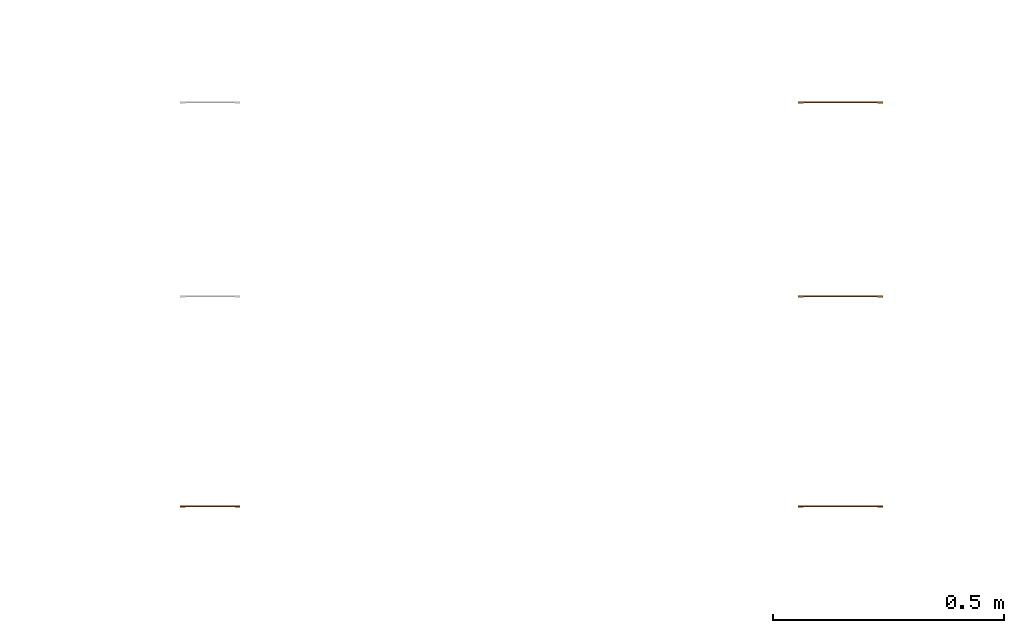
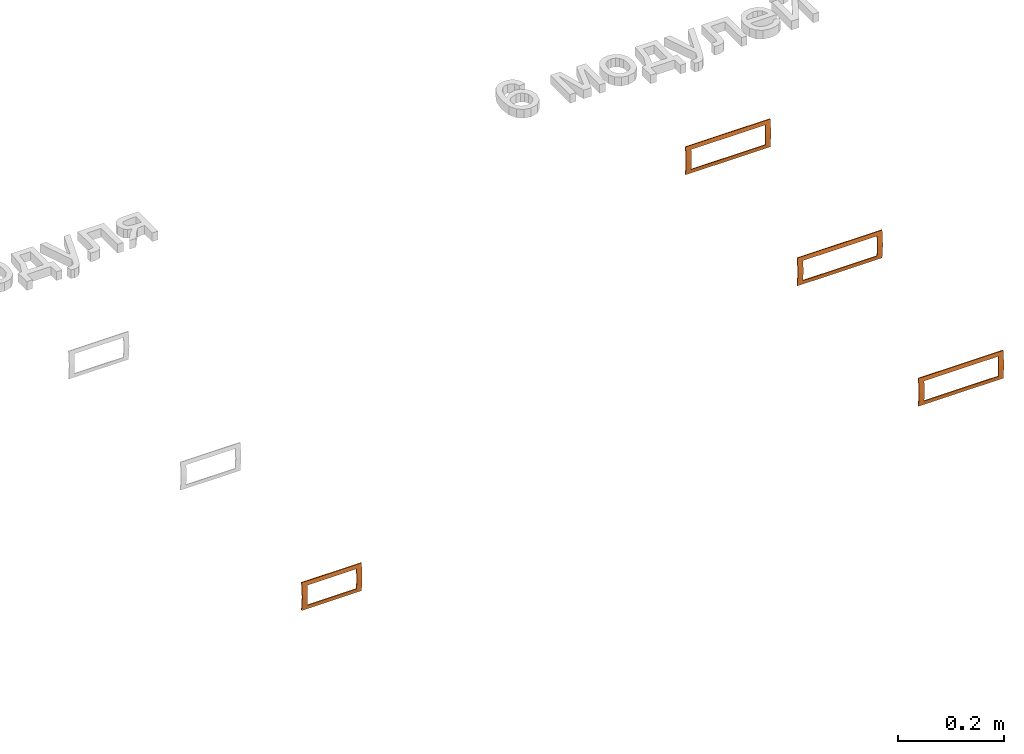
# One storey, part 82 of 87: 4 proxies.
"""IFC2X3 building model written with IfcOpenShell, lengths in millimetres."""

from ifc_helpers import new_model, entity, si_unit, converted_unit, derived_unit, direction, frame, origin, place, context, subcontext, project, spatial, faceted_brep, source, transform, mapped, material, type_object, type_shapes, element, save


model = new_model("IFC2X3")

# Units and contexts
model_context = context("Model", 3, precision=0.01, world=origin(), true_north=direction((6.12303176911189e-17, 1.0)))
body_context = subcontext(model_context, "Body", "Model", "MODEL_VIEW")
ifc_project = project(units=[si_unit("LENGTHUNIT", "METRE", prefix="MILLI"), si_unit("AREAUNIT", "SQUARE_METRE"), si_unit("VOLUMEUNIT", "CUBIC_METRE"), converted_unit("PLANEANGLEUNIT", "DEGREE", entity("IfcRatioMeasure", 0.0174532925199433), si_unit("PLANEANGLEUNIT", "RADIAN"), dimensions=[0, 0, 0, 0, 0, 0, 0]), si_unit("MASSUNIT", "GRAM", prefix="KILO"), derived_unit("MASSDENSITYUNIT", [(si_unit("MASSUNIT", "GRAM", prefix="KILO"), 1), (si_unit("LENGTHUNIT", "METRE"), -3)]), si_unit("TIMEUNIT", "SECOND"), si_unit("FREQUENCYUNIT", "HERTZ"), si_unit("THERMODYNAMICTEMPERATUREUNIT", "DEGREE_CELSIUS"), derived_unit("THERMALTRANSMITTANCEUNIT", [(si_unit("MASSUNIT", "GRAM", prefix="KILO"), 1), (si_unit("THERMODYNAMICTEMPERATUREUNIT", "KELVIN"), -1), (si_unit("TIMEUNIT", "SECOND"), -3)]), derived_unit("VOLUMETRICFLOWRATEUNIT", [(si_unit("LENGTHUNIT", "METRE"), 3), (si_unit("TIMEUNIT", "SECOND"), -1)]), si_unit("ELECTRICCURRENTUNIT", "AMPERE"), si_unit("ELECTRICVOLTAGEUNIT", "VOLT"), si_unit("POWERUNIT", "WATT"), si_unit("FORCEUNIT", "NEWTON", prefix="KILO"), si_unit("ILLUMINANCEUNIT", "LUX"), si_unit("LUMINOUSFLUXUNIT", "LUMEN"), si_unit("LUMINOUSINTENSITYUNIT", "CANDELA"), derived_unit("USERDEFINED", [(si_unit("MASSUNIT", "GRAM", prefix="KILO"), -1), (si_unit("LENGTHUNIT", "METRE"), -2), (si_unit("TIMEUNIT", "SECOND"), 3), (si_unit("LUMINOUSFLUXUNIT", "LUMEN"), 1)]), derived_unit("LINEARVELOCITYUNIT", [(si_unit("LENGTHUNIT", "METRE"), 1), (si_unit("TIMEUNIT", "SECOND"), -1)]), si_unit("PRESSUREUNIT", "PASCAL"), derived_unit("USERDEFINED", [(si_unit("LENGTHUNIT", "METRE"), -2), (si_unit("MASSUNIT", "GRAM", prefix="KILO"), 1), (si_unit("TIMEUNIT", "SECOND"), -2)])], contexts=[model_context])

# Site, building, storey
site_placement = place(None, origin())
site = spatial("IfcSite", under=ifc_project, at=site_placement, Name="Default", CompositionType="ELEMENT")
building_placement = place(site_placement, origin())
building = spatial("IfcBuilding", under=site, at=building_placement, Name="Наименование здания", CompositionType="ELEMENT")
storey_placement = place(building_placement, origin())
storey = spatial("IfcBuildingStorey", under=building, at=storey_placement, Name="Этаж 01", CompositionType="ELEMENT", Elevation=0.0)

# Proxies
ifc_material_1 = material(Name="DKC_Пластик_Серо-черный")
building_element_proxy_type_1 = type_object("IfcBuildingElementProxyType", Name="4 модуля", PredefinedType="NOTDEFINED", material=ifc_material_1)
shared_shape_1 = source(origin(), body_context, "Body", "Brep", [
    faceted_brep([(53.5, -3.2414183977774, -22.9768143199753), (53.5, -3.57058766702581, -17.2326107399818), (53.5, -3.89975693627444, -11.4884071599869), (53.5, -4.22892620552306, -5.74420357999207), (53.5, -4.55809547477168, 0.0), (53.5, -4.22892620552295, 5.74420357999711), (53.5, -3.89975693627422, 11.4884071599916), (53.5, -3.57058766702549, 17.2326107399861), (53.5, -3.24141839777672, 22.9768143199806), (53.5, -1.24141839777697, 22.976814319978), (53.5, -1.57058766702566, 17.2326107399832), (53.5, -1.89975693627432, 11.4884071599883), (53.5, -2.22892620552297, 5.74420357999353), (53.5, -2.55809547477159, 0.0), (53.5, -2.22892620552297, -5.74420357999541), (53.5, -1.89975693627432, -11.4884071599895), (53.5, -1.57058766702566, -17.2326107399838), (53.5, -1.24141839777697, -22.9768143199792), (-53.5, -3.24141839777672, 22.9768143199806), (-53.5, -3.57058766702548, 17.2326107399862), (-53.5, -3.89975693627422, 11.4884071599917), (-53.5, -4.22892620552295, 5.74420357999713), (-53.5, -4.55809547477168, 0.0), (-53.5, -4.22892620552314, -5.74420357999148), (-53.5, -3.89975693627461, -11.4884071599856), (-53.5, -3.57058766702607, -17.2326107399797), (-53.5, -3.24141839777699, -22.9768143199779), (-53.5, -1.24141839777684, -22.9768143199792), (-53.5, -1.57058766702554, -17.2326107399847), (-53.5, -1.89975693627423, -11.4884071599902), (-53.5, -2.22892620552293, -5.74420357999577), (-53.5, -2.55809547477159, 0.0), (-53.5, -2.22892620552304, 5.74420357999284), (-53.5, -1.89975693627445, 11.4884071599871), (-53.5, -1.57058766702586, 17.2326107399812), (-53.5, -1.24141839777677, 22.9768143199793), (26.75, -3.24141839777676, 22.9768143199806), (0.0, -3.24141839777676, 22.9768143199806), (-26.75, -3.24141839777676, 22.9768143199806), (-26.75, -1.24141839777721, 22.976814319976), (0.0, -1.24141839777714, 22.9768143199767), (26.75, -1.24141839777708, 22.9768143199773), (26.75, -1.24141839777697, -22.9768143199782), (0.0, -1.24141839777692, -22.9768143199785), (-26.75, -1.24141839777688, -22.9768143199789), (-26.75, -3.24141839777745, -22.9768143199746), (0.0, -3.24141839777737, -22.9768143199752), (26.75, -3.24141839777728, -22.9768143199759), (65.0, -2.0, -31.9768143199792), (65.0, 0.0, -31.9768143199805), (65.0, -0.639523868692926, -23.9826107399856), (65.0, -1.27904773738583, -15.9884071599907), (65.0, -1.91857160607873, -7.99420357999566), (65.0, -2.55809547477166, 0.0), (65.0, -1.91857160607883, 7.99420357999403), (65.0, -1.27904773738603, 15.9884071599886), (65.0, -0.63952386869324, 23.9826107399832), (65.0, 0.0, 31.9768143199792), (65.0, -2.0, 31.9768143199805), (65.0, -2.63952386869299, 23.9826107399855), (65.0, -3.27904773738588, 15.9884071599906), (65.0, -3.91857160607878, 7.99420357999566), (65.0, -4.55809547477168, 0.0), (65.0, -3.91857160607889, -7.99420357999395), (65.0, -3.27904773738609, -15.9884071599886), (65.0, -2.63952386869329, -23.9826107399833), (-65.0, -2.0, 31.9768143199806), (-65.0, 0.0, 31.9768143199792), (-65.0, -0.639523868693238, 23.9826107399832), (-65.0, -1.27904773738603, 15.9884071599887), (-65.0, -1.91857160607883, 7.99420357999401), (-65.0, -2.55809547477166, 0.0), (-65.0, -1.91857160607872, -7.99420357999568), (-65.0, -1.27904773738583, -15.9884071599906), (-65.0, -0.639523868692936, -23.9826107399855), (-65.0, 0.0, -31.9768143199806), (-65.0, -2.0, -31.9768143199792), (-65.0, -2.6395238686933, -23.9826107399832), (-65.0, -3.27904773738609, -15.9884071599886), (-65.0, -3.91857160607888, -7.99420357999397), (-65.0, -4.55809547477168, 0.0), (-65.0, -3.91857160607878, 7.99420357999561), (-65.0, -3.27904773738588, 15.9884071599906), (-65.0, -2.63952386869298, 23.9826107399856), (32.5, -2.0, 31.9768143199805), (0.0, -2.0, 31.9768143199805), (-32.5, -2.0, 31.9768143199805), (0.0, -2.0, -31.9768143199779), (32.5, -2.0, -31.9768143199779), (-32.5, -2.0, -31.9768143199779), (-32.5, 0.0, -31.9768143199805), (0.0, 0.0, -31.9768143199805), (32.5, 0.0, -31.9768143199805), (-32.5, 0.0, 31.9768143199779), (0.0, 0.0, 31.9768143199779), (32.5, 0.0, 31.9768143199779)], [[[0, 1, 2, 3, 4, 5, 6, 7, 8, 9, 10, 11, 12, 13, 14, 15, 16, 17]], [[18, 19, 20, 21, 22, 23, 24, 25, 26, 27, 28, 29, 30, 31, 32, 33, 34, 35]], [[9, 8, 36, 37, 38, 18, 35, 39, 40, 41]], [[0, 17, 42, 43, 44, 27, 26, 45, 46, 47]], [[48, 49, 50, 51, 52, 53, 54, 55, 56, 57, 58, 59, 60, 61, 62, 63, 64, 65]], [[66, 67, 68, 69, 70, 71, 72, 73, 74, 75, 76, 77, 78, 79, 80, 81, 82, 83]], [[21, 20, 81]], [[7, 59, 8]], [[78, 24, 79]], [[19, 18, 83]], [[36, 8, 58, 84, 85, 86, 66, 18, 38, 37]], [[83, 82, 19]], [[58, 8, 59]], [[23, 80, 79]], [[65, 64, 1]], [[5, 62, 61]], [[76, 26, 77]], [[87, 88, 48, 0, 47, 46, 45, 26, 76, 89]], [[63, 3, 2]], [[1, 0, 65]], [[0, 48, 65]], [[60, 6, 61]], [[18, 66, 83]], [[25, 77, 26]], [[21, 80, 22]], [[62, 5, 4]], [[78, 25, 24]], [[3, 62, 4]], [[80, 23, 22]], [[60, 7, 6]], [[82, 20, 19]], [[77, 25, 78]], [[64, 2, 1]], [[59, 7, 60]], [[20, 82, 81]], [[2, 64, 63]], [[62, 3, 63]], [[80, 21, 81]], [[79, 24, 23]], [[61, 6, 5]], [[49, 48, 88, 87, 89, 76, 75, 90, 91, 92]], [[44, 43, 42, 17, 49, 92, 91, 90, 75, 27]], [[52, 15, 14]], [[72, 71, 30]], [[75, 74, 27]], [[73, 72, 29]], [[34, 68, 35]], [[34, 69, 68]], [[50, 49, 17]], [[9, 57, 56]], [[35, 67, 93, 94, 95, 57, 9, 41, 40, 39]], [[55, 54, 11]], [[54, 53, 12]], [[70, 33, 32]], [[16, 51, 50]], [[9, 56, 10]], [[16, 50, 17]], [[27, 74, 28]], [[68, 67, 35]], [[29, 28, 73]], [[31, 71, 32]], [[13, 12, 53]], [[11, 10, 55]], [[13, 53, 14]], [[31, 30, 71]], [[73, 28, 74]], [[34, 33, 69]], [[55, 10, 56]], [[16, 15, 51]], [[70, 69, 33]], [[52, 51, 15]], [[52, 14, 53]], [[70, 32, 71]], [[30, 29, 72]], [[12, 11, 54]], [[58, 57, 95, 94, 93, 67, 66, 86, 85, 84]]]),
])
type_shapes(building_element_proxy_type_1, [shared_shape_1])
proxy_1_placement = place(storey_placement, frame((78674.7265172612, -8514.43036670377, 0.0)))
element("IfcBuildingElementProxy", 1, at=proxy_1_placement, inside=storey, type_object=building_element_proxy_type_1, material=ifc_material_1, Name="КНС_РамкаУниверсальная_ILF_DKC:4 модуля", ObjectType="4 модуля", context=body_context, shape_type="MappedRepresentation", body=[
    mapped(shared_shape_1, transform((0.0, 0.0, 0.0), scale=1.0)),
])
ifc_material_2 = material(Name="DKC_Пластик_Белый")
building_element_proxy_type_2 = type_object("IfcBuildingElementProxyType", Name="6 модулей", PredefinedType="NOTDEFINED", material=ifc_material_2)
shared_shape_2 = source(origin(), body_context, "Body", "Brep", [
    faceted_brep([(92.0, -2.0, -31.9768143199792), (92.0, 0.0, -31.9768143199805), (92.0, -0.639523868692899, -23.9826107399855), (92.0, -1.27904773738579, -15.9884071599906), (92.0, -1.59880967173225, -11.991305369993), (92.0, -1.9185716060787, -7.99420357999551), (92.0, -2.23833354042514, -3.99710178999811), (92.0, -2.55809547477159, 0.0), (92.0, -2.2383335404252, 3.99710178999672), (92.0, -1.91857160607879, 7.99420357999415), (92.0, -1.59880967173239, 11.9913053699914), (92.0, -1.27904773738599, 15.9884071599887), (92.0, -0.6395238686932, 23.9826107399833), (92.0, 0.0, 31.9768143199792), (92.0, -2.0, 31.9768143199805), (92.0, -2.63952386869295, 23.9826107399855), (92.0, -3.27904773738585, 15.9884071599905), (92.0, -3.59880967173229, 11.9913053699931), (92.0, -3.91857160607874, 7.99420357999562), (92.0, -4.23833354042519, 3.99710178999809), (92.0, -4.55809547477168, 0.0), (92.0, -4.23833354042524, -3.99710178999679), (92.0, -3.91857160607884, -7.99420357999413), (92.0, -3.59880967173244, -11.9913053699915), (92.0, -3.27904773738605, -15.9884071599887), (92.0, -2.63952386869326, -23.9826107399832), (-92.0, -2.0, 31.9768143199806), (-92.0, 0.0, 31.9768143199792), (-92.0, -0.639523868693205, 23.9826107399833), (-92.0, -1.279047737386, 15.9884071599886), (-92.0, -1.5988096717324, 11.9913053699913), (-92.0, -1.9185716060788, 7.99420357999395), (-92.0, -2.2383335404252, 3.99710178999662), (-92.0, -2.55809547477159, 0.0), (-92.0, -2.23833354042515, -3.99710178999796), (-92.0, -1.9185716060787, -7.99420357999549), (-92.0, -1.59880967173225, -11.991305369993), (-92.0, -1.2790477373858, -15.9884071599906), (-92.0, -0.639523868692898, -23.9826107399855), (-92.0, 0.0, -31.9768143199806), (-92.0, -2.0, -31.9768143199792), (-92.0, -2.63952386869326, -23.9826107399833), (-92.0, -3.27904773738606, -15.9884071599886), (-92.0, -3.59880967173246, -11.9913053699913), (-92.0, -3.91857160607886, -7.99420357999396), (-92.0, -4.23833354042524, -3.99710178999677), (-92.0, -4.55809547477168, 0.0), (-92.0, -4.2383335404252, 3.99710178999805), (-92.0, -3.91857160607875, 7.99420357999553), (-92.0, -3.5988096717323, 11.991305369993), (-92.0, -3.27904773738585, 15.9884071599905), (-92.0, -2.63952386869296, 23.9826107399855), (-80.5, -4.22892620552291, 5.74420357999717), (-80.5, -3.89975693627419, 11.4884071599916), (80.5, -3.57058766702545, 17.2326107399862), (80.5, -3.24141839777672, 22.9768143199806), (-80.5, -3.89975693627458, -11.4884071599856), (-80.5, -3.57058766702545, 17.2326107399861), (-80.5, -3.24141839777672, 22.9768143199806), (40.25, -3.24141839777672, 22.9768143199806), (46.0, -2.0, 31.9768143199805), (0.0, -2.0, 31.9768143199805), (-46.0, -2.0, 31.9768143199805), (-40.25, -3.24141839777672, 22.9768143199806), (0.0, -3.24141839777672, 22.9768143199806), (-80.5, -4.22892620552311, -5.74420357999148), (80.5, -3.57058766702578, -17.2326107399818), (80.5, -4.22892620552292, 5.74420357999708), (-80.5, -3.2414183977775, -22.9768143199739), (0.0, -2.0, -31.9768143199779), (46.0, -2.0, -31.9768143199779), (80.5, -3.24141839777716, -22.9768143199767), (40.25, -3.24141839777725, -22.976814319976), (0.0, -3.24141839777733, -22.9768143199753), (-40.25, -3.24141839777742, -22.9768143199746), (-46.0, -2.0, -31.9768143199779), (80.5, -4.22892620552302, -5.74420357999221), (80.5, -3.8997569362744, -11.488407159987), (80.5, -3.89975693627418, 11.4884071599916), (-80.5, -3.57058766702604, -17.2326107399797), (-80.5, -4.55809547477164, 0.0), (80.5, -4.55809547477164, 0.0), (-46.0, 0.0, -31.9768143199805), (0.0, 0.0, -31.9768143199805), (46.0, 0.0, -31.9768143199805), (-40.25, -1.24141839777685, -22.9768143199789), (0.0, -1.24141839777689, -22.9768143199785), (40.25, -1.24141839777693, -22.9768143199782), (80.5, -1.24141839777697, -22.9768143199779), (-80.5, -1.24141839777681, -22.9768143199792), (80.5, -1.89975693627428, -11.4884071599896), (80.5, -2.22892620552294, -5.74420357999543), (-80.5, -2.2289262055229, -5.74420357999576), (-80.5, -1.8997569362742, -11.4884071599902), (-80.5, -1.57058766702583, 17.2326107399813), (-80.5, -1.24141839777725, 22.9768143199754), (80.5, -1.24141839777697, 22.976814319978), (-46.0, 0.0, 31.9768143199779), (0.0, 0.0, 31.9768143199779), (46.0, 0.0, 31.9768143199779), (40.25, -1.24141839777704, 22.9768143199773), (0.0, -1.24141839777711, 22.9768143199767), (-40.25, -1.24141839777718, 22.9768143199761), (80.5, -1.89975693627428, 11.4884071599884), (80.5, -2.22892620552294, 5.74420357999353), (-80.5, -1.89975693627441, 11.4884071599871), (-80.5, -2.22892620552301, 5.74420357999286), (80.5, -1.57058766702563, -17.2326107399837), (80.5, -1.57058766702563, 17.2326107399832), (-80.5, -1.5705876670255, -17.2326107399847), (-80.5, -2.55809547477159, 0.0), (80.5, -2.55809547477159, 0.0)], [[[0, 1, 2, 3, 4, 5, 6, 7, 8, 9, 10, 11, 12, 13, 14, 15, 16, 17, 18, 19, 20, 21, 22, 23, 24, 25]], [[26, 27, 28, 29, 30, 31, 32, 33, 34, 35, 36, 37, 38, 39, 40, 41, 42, 43, 44, 45, 46, 47, 48, 49, 50, 51]], [[52, 53, 48]], [[54, 15, 55]], [[42, 56, 44, 43]], [[57, 58, 51]], [[59, 55, 14, 60, 61, 62, 26, 58, 63, 64]], [[51, 50, 57]], [[14, 55, 15]], [[65, 45, 44]], [[25, 24, 66]], [[67, 19, 18]], [[40, 68, 41]], [[69, 70, 0, 71, 72, 73, 74, 68, 40, 75]], [[22, 76, 77]], [[66, 71, 25]], [[71, 0, 25]], [[16, 78, 18, 17]], [[58, 26, 51]], [[79, 41, 68]], [[47, 80, 52]], [[42, 79, 56]], [[21, 81, 76]], [[16, 54, 78]], [[50, 53, 57]], [[41, 79, 42]], [[24, 77, 66]], [[15, 54, 16]], [[45, 80, 46]], [[81, 21, 20]], [[19, 81, 20]], [[80, 47, 46]], [[53, 50, 49, 48]], [[77, 24, 23, 22]], [[44, 56, 65]], [[18, 78, 67]], [[81, 19, 67]], [[80, 45, 65]], [[52, 48, 47]], [[76, 22, 21]], [[1, 0, 70, 69, 75, 40, 39, 82, 83, 84]], [[85, 86, 87, 88, 1, 84, 83, 82, 39, 89]], [[5, 90, 91]], [[35, 34, 92]], [[39, 38, 89]], [[37, 36, 35, 93]], [[94, 28, 95]], [[94, 29, 28]], [[2, 1, 88]], [[96, 13, 12]], [[95, 27, 97, 98, 99, 13, 96, 100, 101, 102]], [[11, 10, 9, 103]], [[9, 8, 104]], [[31, 105, 106]], [[107, 3, 2]], [[96, 12, 108]], [[107, 2, 88]], [[89, 38, 109]], [[28, 27, 95]], [[93, 109, 37]], [[106, 110, 32]], [[103, 108, 11]], [[91, 111, 6]], [[37, 109, 38]], [[94, 105, 29]], [[11, 108, 12]], [[107, 90, 3]], [[33, 110, 34]], [[7, 6, 111]], [[7, 111, 8]], [[33, 32, 110]], [[31, 30, 29, 105]], [[5, 4, 3, 90]], [[92, 93, 35]], [[104, 103, 9]], [[104, 8, 111]], [[92, 34, 110]], [[32, 31, 106]], [[6, 5, 91]], [[14, 13, 99, 98, 97, 27, 26, 62, 61, 60]], [[71, 66, 77, 76, 81, 67, 78, 54, 55, 96, 108, 103, 104, 111, 91, 90, 107, 88]], [[58, 57, 53, 52, 80, 65, 56, 79, 68, 89, 109, 93, 92, 110, 106, 105, 94, 95]], [[55, 59, 64, 63, 58, 95, 102, 101, 100, 96]], [[88, 87, 86, 85, 89, 68, 74, 73, 72, 71]]]),
])
type_shapes(building_element_proxy_type_2, [shared_shape_2])
proxy_2_placement = place(storey_placement, frame((80040.6325443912, -7638.63930816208, 0.0)))
element("IfcBuildingElementProxy", 2, at=proxy_2_placement, inside=storey, type_object=building_element_proxy_type_2, material=ifc_material_2, Name="КНС_РамкаУниверсальная_ILF_DKC:6 модулей", ObjectType="6 модулей", context=body_context, shape_type="MappedRepresentation", body=[
    mapped(shared_shape_2, transform((0.0, 0.0, 0.0), scale=1.0)),
])
ifc_material_3 = material(Name="DKC_Пластик_СерыйМеталлик")
building_element_proxy_type_3 = type_object("IfcBuildingElementProxyType", Name="6 модулей", PredefinedType="NOTDEFINED", material=ifc_material_3)
shared_shape_3 = source(origin(), body_context, "Body", "Brep", [
    faceted_brep([(80.5, -3.24141839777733, -22.9768143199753), (80.5, -3.57058766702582, -17.2326107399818), (80.5, -3.89975693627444, -11.488407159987), (80.5, -4.22892620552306, -5.74420357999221), (80.5, -4.55809547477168, 0.0), (80.5, -4.22892620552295, 5.74420357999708), (80.5, -3.89975693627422, 11.4884071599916), (80.5, -3.57058766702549, 17.2326107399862), (80.5, -3.24141839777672, 22.9768143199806), (80.5, -1.24141839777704, 22.9768143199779), (80.5, -1.57058766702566, 17.2326107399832), (80.5, -1.89975693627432, 11.4884071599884), (80.5, -2.22892620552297, 5.74420357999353), (80.5, -2.55809547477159, 0.0), (80.5, -2.22892620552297, -5.74420357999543), (80.5, -1.89975693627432, -11.4884071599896), (80.5, -1.57058766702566, -17.2326107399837), (80.5, -1.24141839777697, -22.9768143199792), (-80.5, -3.24141839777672, 22.9768143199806), (-80.5, -3.57058766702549, 17.2326107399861), (-80.5, -3.89975693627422, 11.4884071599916), (-80.5, -4.22892620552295, 5.74420357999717), (-80.5, -4.55809547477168, 0.0), (-80.5, -4.22892620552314, -5.74420357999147), (-80.5, -3.89975693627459, -11.4884071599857), (-80.5, -3.57058766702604, -17.2326107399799), (-80.5, -3.24141839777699, -22.9768143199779), (-80.5, -1.24141839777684, -22.9768143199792), (-80.5, -1.57058766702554, -17.2326107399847), (-80.5, -1.89975693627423, -11.4884071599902), (-80.5, -2.22892620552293, -5.74420357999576), (-80.5, -2.55809547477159, 0.0), (-80.5, -2.22892620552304, 5.74420357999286), (-80.5, -1.89975693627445, 11.4884071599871), (-80.5, -1.57058766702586, 17.2326107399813), (-80.5, -1.24141839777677, 22.9768143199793), (40.25, -3.24141839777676, 22.9768143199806), (0.0, -3.24141839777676, 22.9768143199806), (-40.25, -3.24141839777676, 22.9768143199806), (-40.25, -1.24141839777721, 22.9768143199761), (0.0, -1.24141839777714, 22.9768143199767), (40.25, -1.24141839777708, 22.9768143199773), (40.25, -1.24141839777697, -22.9768143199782), (0.0, -1.24141839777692, -22.9768143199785), (-40.25, -1.24141839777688, -22.9768143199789), (-40.25, -3.24141839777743, -22.9768143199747), (0.0, -3.24141839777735, -22.9768143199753), (40.25, -3.24141839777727, -22.976814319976), (92.0, -2.0, -31.9768143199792), (92.0, 0.0, -31.9768143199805), (92.0, -0.639523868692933, -23.9826107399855), (92.0, -1.27904773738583, -15.9884071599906), (92.0, -1.59880967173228, -11.991305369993), (92.0, -1.91857160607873, -7.99420357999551), (92.0, -2.23833354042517, -3.99710178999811), (92.0, -2.55809547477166, 0.0), (92.0, -2.23833354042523, 3.99710178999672), (92.0, -1.91857160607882, 7.99420357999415), (92.0, -1.59880967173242, 11.9913053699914), (92.0, -1.27904773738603, 15.9884071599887), (92.0, -0.639523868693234, 23.9826107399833), (92.0, 0.0, 31.9768143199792), (92.0, -2.0, 31.9768143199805), (92.0, -2.63952386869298, 23.9826107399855), (92.0, -3.27904773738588, 15.9884071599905), (92.0, -3.59880967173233, 11.9913053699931), (92.0, -3.91857160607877, 7.99420357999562), (92.0, -4.23833354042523, 3.99710178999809), (92.0, -4.55809547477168, 0.0), (92.0, -4.23833354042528, -3.99710178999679), (92.0, -3.91857160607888, -7.99420357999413), (92.0, -3.59880967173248, -11.9913053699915), (92.0, -3.27904773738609, -15.9884071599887), (92.0, -2.63952386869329, -23.9826107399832), (-92.0, -2.0, 31.9768143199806), (-92.0, 0.0, 31.9768143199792), (-92.0, -0.639523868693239, 23.9826107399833), (-92.0, -1.27904773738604, 15.9884071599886), (-92.0, -1.59880967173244, 11.9913053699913), (-92.0, -1.91857160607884, 7.99420357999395), (-92.0, -2.23833354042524, 3.99710178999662), (-92.0, -2.55809547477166, 0.0), (-92.0, -2.23833354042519, -3.99710178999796), (-92.0, -1.91857160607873, -7.99420357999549), (-92.0, -1.59880967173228, -11.991305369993), (-92.0, -1.27904773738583, -15.9884071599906), (-92.0, -0.639523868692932, -23.9826107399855), (-92.0, 0.0, -31.9768143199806), (-92.0, -2.0, -31.9768143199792), (-92.0, -2.63952386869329, -23.9826107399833), (-92.0, -3.27904773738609, -15.9884071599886), (-92.0, -3.59880967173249, -11.9913053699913), (-92.0, -3.91857160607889, -7.99420357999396), (-92.0, -4.23833354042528, -3.99710178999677), (-92.0, -4.55809547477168, 0.0), (-92.0, -4.23833354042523, 3.99710178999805), (-92.0, -3.91857160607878, 7.99420357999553), (-92.0, -3.59880967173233, 11.991305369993), (-92.0, -3.27904773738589, 15.9884071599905), (-92.0, -2.63952386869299, 23.9826107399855), (46.0, -2.0, 31.9768143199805), (0.0, -2.0, 31.9768143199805), (-46.0, -2.0, 31.9768143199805), (0.0, -2.0, -31.9768143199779), (46.0, -2.0, -31.9768143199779), (-46.0, -2.0, -31.9768143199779), (-46.0, 0.0, -31.9768143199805), (0.0, 0.0, -31.9768143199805), (46.0, 0.0, -31.9768143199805), (-46.0, 0.0, 31.9768143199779), (0.0, 0.0, 31.9768143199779), (46.0, 0.0, 31.9768143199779)], [[[0, 1, 2, 3, 4, 5, 6, 7, 8, 9, 10, 11, 12, 13, 14, 15, 16, 17]], [[18, 19, 20, 21, 22, 23, 24, 25, 26, 27, 28, 29, 30, 31, 32, 33, 34, 35]], [[8, 36, 37, 38, 18, 35, 39, 40, 41, 9]], [[0, 17, 42, 43, 44, 27, 26, 45, 46, 47]], [[48, 49, 50, 51, 52, 53, 54, 55, 56, 57, 58, 59, 60, 61, 62, 63, 64, 65, 66, 67, 68, 69, 70, 71, 72, 73]], [[74, 75, 76, 77, 78, 79, 80, 81, 82, 83, 84, 85, 86, 87, 88, 89, 90, 91, 92, 93, 94, 95, 96, 97, 98, 99]], [[21, 20, 96]], [[7, 63, 8]], [[90, 24, 92, 91]], [[19, 18, 99]], [[36, 8, 62, 100, 101, 102, 74, 18, 38, 37]], [[99, 98, 19]], [[62, 8, 63]], [[23, 93, 92]], [[73, 72, 1]], [[5, 67, 66]], [[88, 26, 89]], [[103, 104, 48, 0, 47, 46, 45, 26, 88, 105]], [[70, 3, 2]], [[1, 0, 73]], [[0, 48, 73]], [[64, 6, 66, 65]], [[18, 74, 99]], [[25, 89, 26]], [[95, 22, 21]], [[90, 25, 24]], [[69, 4, 3]], [[64, 7, 6]], [[98, 20, 19]], [[89, 25, 90]], [[72, 2, 1]], [[63, 7, 64]], [[93, 22, 94]], [[4, 69, 68]], [[67, 4, 68]], [[22, 95, 94]], [[20, 98, 97, 96]], [[2, 72, 71, 70]], [[92, 24, 23]], [[66, 6, 5]], [[4, 67, 5]], [[22, 93, 23]], [[21, 96, 95]], [[3, 70, 69]], [[48, 104, 103, 105, 88, 87, 106, 107, 108, 49]], [[44, 43, 42, 17, 49, 108, 107, 106, 87, 27]], [[53, 15, 14]], [[83, 82, 30]], [[87, 86, 27]], [[85, 84, 83, 29]], [[34, 76, 35]], [[34, 77, 76]], [[50, 49, 17]], [[9, 61, 60]], [[35, 75, 109, 110, 111, 61, 9, 41, 40, 39]], [[59, 58, 57, 11]], [[57, 56, 12]], [[79, 33, 32]], [[16, 51, 50]], [[9, 60, 10]], [[16, 50, 17]], [[27, 86, 28]], [[76, 75, 35]], [[29, 28, 85]], [[32, 31, 80]], [[11, 10, 59]], [[14, 13, 54]], [[85, 28, 86]], [[34, 33, 77]], [[59, 10, 60]], [[16, 15, 51]], [[81, 31, 82]], [[55, 54, 13]], [[55, 13, 56]], [[81, 80, 31]], [[79, 78, 77, 33]], [[53, 52, 51, 15]], [[30, 29, 83]], [[12, 11, 57]], [[12, 56, 13]], [[30, 82, 31]], [[80, 79, 32]], [[54, 53, 14]], [[61, 111, 110, 109, 75, 74, 102, 101, 100, 62]]]),
])
type_shapes(building_element_proxy_type_3, [shared_shape_3])
proxy_3_placement = place(storey_placement, frame((80040.6325443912, -8059.01064109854, 0.0)))
element("IfcBuildingElementProxy", 3, at=proxy_3_placement, inside=storey, type_object=building_element_proxy_type_3, material=ifc_material_3, Name="КНС_РамкаУниверсальная_ILF_DKC:6 модулей", ObjectType="6 модулей", context=body_context, shape_type="MappedRepresentation", body=[
    mapped(shared_shape_3, transform((0.0, 0.0, 0.0), scale=1.0)),
])
building_element_proxy_type_4 = type_object("IfcBuildingElementProxyType", Name="6 модулей", PredefinedType="NOTDEFINED", material=ifc_material_1)
shared_shape_4 = source(origin(), body_context, "Body", "Brep", [
    faceted_brep([(80.5, -3.2414183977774, -22.9768143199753), (80.5, -3.57058766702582, -17.2326107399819), (80.5, -3.89975693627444, -11.488407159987), (80.5, -4.22892620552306, -5.74420357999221), (80.5, -4.55809547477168, 0.0), (80.5, -4.22892620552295, 5.74420357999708), (80.5, -3.89975693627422, 11.4884071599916), (80.5, -3.57058766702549, 17.2326107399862), (80.5, -3.24141839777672, 22.9768143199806), (80.5, -1.24141839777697, 22.976814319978), (80.5, -1.57058766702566, 17.2326107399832), (80.5, -1.89975693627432, 11.4884071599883), (80.5, -2.22892620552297, 5.74420357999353), (80.5, -2.55809547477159, 0.0), (80.5, -2.22892620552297, -5.74420357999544), (80.5, -1.89975693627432, -11.4884071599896), (80.5, -1.57058766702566, -17.2326107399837), (80.5, -1.24141839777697, -22.9768143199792), (-80.5, -3.24141839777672, 22.9768143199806), (-80.5, -3.57058766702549, 17.2326107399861), (-80.5, -3.89975693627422, 11.4884071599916), (-80.5, -4.22892620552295, 5.74420357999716), (-80.5, -4.55809547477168, 0.0), (-80.5, -4.22892620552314, -5.74420357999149), (-80.5, -3.89975693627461, -11.4884071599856), (-80.5, -3.57058766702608, -17.2326107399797), (-80.5, -3.24141839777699, -22.9768143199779), (-80.5, -1.24141839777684, -22.9768143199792), (-80.5, -1.57058766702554, -17.2326107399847), (-80.5, -1.89975693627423, -11.4884071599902), (-80.5, -2.22892620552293, -5.74420357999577), (-80.5, -2.55809547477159, 0.0), (-80.5, -2.22892620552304, 5.74420357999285), (-80.5, -1.89975693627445, 11.4884071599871), (-80.5, -1.57058766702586, 17.2326107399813), (-80.5, -1.24141839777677, 22.9768143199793), (40.25, -3.24141839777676, 22.9768143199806), (0.0, -3.24141839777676, 22.9768143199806), (-40.25, -3.24141839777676, 22.9768143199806), (-40.25, -1.24141839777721, 22.9768143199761), (0.0, -1.24141839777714, 22.9768143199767), (40.25, -1.24141839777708, 22.9768143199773), (40.25, -1.24141839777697, -22.9768143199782), (0.0, -1.24141839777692, -22.9768143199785), (-40.25, -1.24141839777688, -22.9768143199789), (-40.25, -3.24141839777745, -22.9768143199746), (0.0, -3.24141839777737, -22.9768143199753), (40.25, -3.24141839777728, -22.976814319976), (92.0, -2.0, -31.9768143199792), (92.0, 0.0, -31.9768143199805), (92.0, -0.639523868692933, -23.9826107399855), (92.0, -1.27904773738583, -15.9884071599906), (92.0, -1.59880967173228, -11.9913053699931), (92.0, -1.91857160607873, -7.99420357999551), (92.0, -2.23833354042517, -3.99710178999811), (92.0, -2.55809547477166, 0.0), (92.0, -2.23833354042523, 3.99710178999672), (92.0, -1.91857160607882, 7.99420357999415), (92.0, -1.59880967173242, 11.9913053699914), (92.0, -1.27904773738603, 15.9884071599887), (92.0, -0.639523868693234, 23.9826107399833), (92.0, 0.0, 31.9768143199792), (92.0, -2.0, 31.9768143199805), (92.0, -2.63952386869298, 23.9826107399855), (92.0, -3.27904773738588, 15.9884071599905), (92.0, -3.59880967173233, 11.9913053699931), (92.0, -3.91857160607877, 7.99420357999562), (92.0, -4.23833354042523, 3.99710178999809), (92.0, -4.55809547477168, 0.0), (92.0, -4.23833354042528, -3.99710178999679), (92.0, -3.91857160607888, -7.99420357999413), (92.0, -3.59880967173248, -11.9913053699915), (92.0, -3.27904773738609, -15.9884071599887), (92.0, -2.63952386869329, -23.9826107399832), (-92.0, -2.0, 31.9768143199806), (-92.0, 0.0, 31.9768143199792), (-92.0, -0.639523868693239, 23.9826107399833), (-92.0, -1.27904773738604, 15.9884071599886), (-92.0, -1.59880967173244, 11.9913053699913), (-92.0, -1.91857160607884, 7.99420357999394), (-92.0, -2.23833354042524, 3.99710178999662), (-92.0, -2.55809547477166, 0.0), (-92.0, -2.23833354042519, -3.99710178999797), (-92.0, -1.91857160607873, -7.9942035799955), (-92.0, -1.59880967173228, -11.991305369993), (-92.0, -1.27904773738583, -15.9884071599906), (-92.0, -0.639523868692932, -23.9826107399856), (-92.0, 0.0, -31.9768143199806), (-92.0, -2.0, -31.9768143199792), (-92.0, -2.63952386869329, -23.9826107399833), (-92.0, -3.27904773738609, -15.9884071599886), (-92.0, -3.59880967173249, -11.9913053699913), (-92.0, -3.91857160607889, -7.99420357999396), (-92.0, -4.23833354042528, -3.99710178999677), (-92.0, -4.55809547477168, 0.0), (-92.0, -4.23833354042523, 3.99710178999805), (-92.0, -3.91857160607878, 7.99420357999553), (-92.0, -3.59880967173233, 11.991305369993), (-92.0, -3.27904773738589, 15.9884071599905), (-92.0, -2.63952386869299, 23.9826107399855), (46.0, -2.0, 31.9768143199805), (0.0, -2.0, 31.9768143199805), (-46.0, -2.0, 31.9768143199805), (0.0, -2.0, -31.9768143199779), (46.0, -2.0, -31.9768143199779), (-46.0, -2.0, -31.9768143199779), (-46.0, 0.0, -31.9768143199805), (0.0, 0.0, -31.9768143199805), (46.0, 0.0, -31.9768143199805), (-46.0, 0.0, 31.9768143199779), (0.0, 0.0, 31.9768143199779), (46.0, 0.0, 31.9768143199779)], [[[0, 1, 2, 3, 4, 5, 6, 7, 8, 9, 10, 11, 12, 13, 14, 15, 16, 17]], [[18, 19, 20, 21, 22, 23, 24, 25, 26, 27, 28, 29, 30, 31, 32, 33, 34, 35]], [[8, 36, 37, 38, 18, 35, 39, 40, 41, 9]], [[0, 17, 42, 43, 44, 27, 26, 45, 46, 47]], [[48, 49, 50, 51, 52, 53, 54, 55, 56, 57, 58, 59, 60, 61, 62, 63, 64, 65, 66, 67, 68, 69, 70, 71, 72, 73]], [[74, 75, 76, 77, 78, 79, 80, 81, 82, 83, 84, 85, 86, 87, 88, 89, 90, 91, 92, 93, 94, 95, 96, 97, 98, 99]], [[21, 20, 96]], [[7, 63, 8]], [[90, 24, 92, 91]], [[19, 18, 99]], [[36, 8, 62, 100, 101, 102, 74, 18, 38, 37]], [[99, 98, 19]], [[62, 8, 63]], [[23, 93, 92]], [[73, 72, 1]], [[5, 67, 66]], [[88, 26, 89]], [[103, 104, 48, 0, 47, 46, 45, 26, 88, 105]], [[70, 3, 2]], [[1, 0, 73]], [[0, 48, 73]], [[64, 6, 66, 65]], [[18, 74, 99]], [[25, 89, 26]], [[95, 22, 21]], [[90, 25, 24]], [[69, 4, 3]], [[64, 7, 6]], [[98, 20, 19]], [[89, 25, 90]], [[72, 2, 1]], [[63, 7, 64]], [[93, 22, 94]], [[4, 69, 68]], [[67, 4, 68]], [[22, 95, 94]], [[20, 98, 97, 96]], [[2, 72, 71, 70]], [[92, 24, 23]], [[66, 6, 5]], [[4, 67, 5]], [[22, 93, 23]], [[21, 96, 95]], [[3, 70, 69]], [[48, 104, 103, 105, 88, 87, 106, 107, 108, 49]], [[44, 43, 42, 17, 49, 108, 107, 106, 87, 27]], [[53, 15, 14]], [[83, 82, 30]], [[87, 86, 27]], [[85, 84, 83, 29]], [[34, 76, 35]], [[34, 77, 76]], [[50, 49, 17]], [[9, 61, 60]], [[35, 75, 109, 110, 111, 61, 9, 41, 40, 39]], [[59, 58, 57, 11]], [[57, 56, 12]], [[79, 33, 32]], [[16, 51, 50]], [[9, 60, 10]], [[16, 50, 17]], [[27, 86, 28]], [[76, 75, 35]], [[29, 28, 85]], [[32, 31, 80]], [[11, 10, 59]], [[14, 13, 54]], [[85, 28, 86]], [[34, 33, 77]], [[59, 10, 60]], [[16, 15, 51]], [[81, 31, 82]], [[55, 54, 13]], [[55, 13, 56]], [[81, 80, 31]], [[79, 78, 77, 33]], [[53, 52, 51, 15]], [[30, 29, 83]], [[12, 11, 57]], [[12, 56, 13]], [[30, 82, 31]], [[80, 79, 32]], [[54, 53, 14]], [[61, 111, 110, 109, 75, 74, 102, 101, 100, 62]]]),
])
type_shapes(building_element_proxy_type_4, [shared_shape_4])
proxy_4_placement = place(storey_placement, frame((80040.6325443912, -8514.43036670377, 0.0)))
element("IfcBuildingElementProxy", 4, at=proxy_4_placement, inside=storey, type_object=building_element_proxy_type_4, material=ifc_material_1, Name="КНС_РамкаУниверсальная_ILF_DKC:6 модулей", ObjectType="6 модулей", context=body_context, shape_type="MappedRepresentation", body=[
    mapped(shared_shape_4, transform((0.0, 0.0, 0.0), scale=1.0)),
])

save(model, "model.ifc")
